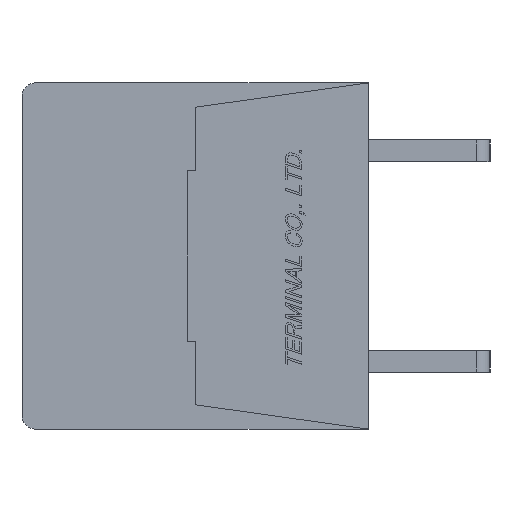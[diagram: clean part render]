
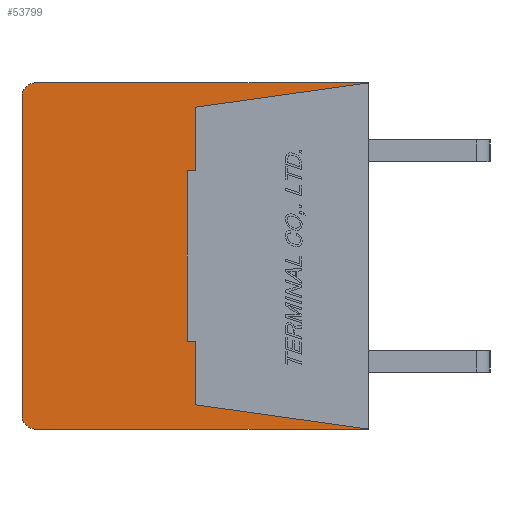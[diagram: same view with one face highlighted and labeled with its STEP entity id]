
A CAD part, left-side view. The second image highlights one B-rep face of the part: STEP entity #53799.
In plain terms, the highlighted planar face has unit normal (-1, 0, 0).
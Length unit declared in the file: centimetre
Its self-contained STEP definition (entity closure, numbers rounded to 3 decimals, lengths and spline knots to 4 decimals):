
#2728=CIRCLE('',#92069,0.05);
#2729=CIRCLE('',#92072,0.05);
#4871=VERTEX_POINT('',#74881);
#4872=VERTEX_POINT('',#74883);
#4873=VERTEX_POINT('',#74887);
#4874=VERTEX_POINT('',#74891);
#4875=VERTEX_POINT('',#74895);
#4876=VERTEX_POINT('',#74899);
#4877=VERTEX_POINT('',#74902);
#4878=VERTEX_POINT('',#74904);
#4879=VERTEX_POINT('',#74906);
#4880=VERTEX_POINT('',#74908);
#4881=VERTEX_POINT('',#74910);
#4882=VERTEX_POINT('',#74912);
#10505=VECTOR('',#62491,1.);
#10509=VECTOR('',#62500,1.);
#10512=VECTOR('',#62508,1.);
#10513=VECTOR('',#62509,1.);
#10514=VECTOR('',#62510,1.);
#10515=VECTOR('',#62511,1.);
#10516=VECTOR('',#62512,1.);
#10517=VECTOR('',#62513,1.);
#10518=VECTOR('',#62514,1.);
#10519=VECTOR('',#62515,1.);
#16821=LINE('',#74882,#10505);
#16825=LINE('',#74892,#10509);
#16828=LINE('',#74900,#10512);
#16829=LINE('',#74901,#10513);
#16830=LINE('',#74903,#10514);
#16831=LINE('',#74905,#10515);
#16832=LINE('',#74907,#10516);
#16833=LINE('',#74909,#10517);
#16834=LINE('',#74911,#10518);
#16835=LINE('',#74913,#10519);
#23917=EDGE_CURVE('',#4872,#4871,#16821,.T.);
#23920=EDGE_CURVE('',#4873,#4871,#2728,.T.);
#23922=EDGE_CURVE('',#4873,#4874,#16825,.T.);
#23924=EDGE_CURVE('',#4875,#4874,#2729,.T.);
#23926=EDGE_CURVE('',#4875,#4876,#16828,.T.);
#23927=EDGE_CURVE('',#4877,#4872,#16829,.T.);
#23928=EDGE_CURVE('',#4876,#4878,#16830,.T.);
#23929=EDGE_CURVE('',#4878,#4879,#16831,.T.);
#23930=EDGE_CURVE('',#4879,#4880,#16832,.T.);
#23931=EDGE_CURVE('',#4880,#4881,#16833,.T.);
#23932=EDGE_CURVE('',#4881,#4882,#16834,.T.);
#23933=EDGE_CURVE('',#4882,#4877,#16835,.T.);
#34795=ORIENTED_EDGE('',*,*,#23927,.T.);
#34796=ORIENTED_EDGE('',*,*,#23917,.T.);
#34797=ORIENTED_EDGE('',*,*,#23920,.F.);
#34798=ORIENTED_EDGE('',*,*,#23922,.T.);
#34799=ORIENTED_EDGE('',*,*,#23924,.F.);
#34800=ORIENTED_EDGE('',*,*,#23926,.T.);
#34801=ORIENTED_EDGE('',*,*,#23928,.T.);
#34802=ORIENTED_EDGE('',*,*,#23929,.T.);
#34803=ORIENTED_EDGE('',*,*,#23930,.T.);
#34804=ORIENTED_EDGE('',*,*,#23931,.T.);
#34805=ORIENTED_EDGE('',*,*,#23932,.T.);
#34806=ORIENTED_EDGE('',*,*,#23933,.T.);
#46863=EDGE_LOOP('',(#34795,#34796,#34797,#34798,#34799,#34800,#34801,#34802,
#34803,#34804,#34805,#34806));
#50403=FACE_BOUND('',#46863,.T.);
#53799=ADVANCED_FACE('',(#50403),#56726,.F.);
#56726=PLANE('',#92066);
#62377=DIRECTION('',(1.,0.,0.));
#62491=DIRECTION('',(0.,1.,0.));
#62496=DIRECTION('',(1.,0.,0.));
#62497=DIRECTION('',(0.,0.,-0.05));
#62500=DIRECTION('',(0.,0.,-1.));
#62504=DIRECTION('',(1.,0.,0.));
#62505=DIRECTION('',(0.,0.,-0.05));
#62508=DIRECTION('',(0.,-1.,0.));
#62509=DIRECTION('',(0.,-0.99,0.139));
#62510=DIRECTION('',(0.,0.99,0.139));
#62511=DIRECTION('',(0.,0.,1.));
#62512=DIRECTION('',(0.,1.,0.));
#62513=DIRECTION('',(0.,0.,1.));
#62514=DIRECTION('',(0.,-1.,0.));
#62515=DIRECTION('',(0.,0.,1.));
#74448=CARTESIAN_POINT('',(-1.,0.6345,0.));
#74881=CARTESIAN_POINT('',(-1.,1.23,0.64));
#74882=CARTESIAN_POINT('',(-1.,0.,0.64));
#74883=CARTESIAN_POINT('',(-1.,0.,0.64));
#74887=CARTESIAN_POINT('',(-1.,1.28,0.59));
#74888=CARTESIAN_POINT('',(-1.,1.23,0.59));
#74891=CARTESIAN_POINT('',(-1.,1.28,-0.59));
#74892=CARTESIAN_POINT('',(-1.,1.28,0.59));
#74895=CARTESIAN_POINT('',(-1.,1.23,-0.64));
#74896=CARTESIAN_POINT('',(-1.,1.23,-0.59));
#74899=CARTESIAN_POINT('',(-1.,0.,-0.64));
#74900=CARTESIAN_POINT('',(-1.,1.23,-0.64));
#74901=CARTESIAN_POINT('',(-1.,0.64,0.55));
#74902=CARTESIAN_POINT('',(-1.,0.64,0.55));
#74903=CARTESIAN_POINT('',(-1.,0.,-0.64));
#74904=CARTESIAN_POINT('',(-1.,0.64,-0.55));
#74905=CARTESIAN_POINT('',(-1.,0.64,-0.55));
#74906=CARTESIAN_POINT('',(-1.,0.64,-0.315));
#74907=CARTESIAN_POINT('',(-1.,0.64,-0.315));
#74908=CARTESIAN_POINT('',(-1.,0.67,-0.315));
#74909=CARTESIAN_POINT('',(-1.,0.67,-0.315));
#74910=CARTESIAN_POINT('',(-1.,0.67,0.315));
#74911=CARTESIAN_POINT('',(-1.,0.67,0.315));
#74912=CARTESIAN_POINT('',(-1.,0.64,0.315));
#74913=CARTESIAN_POINT('',(-1.,0.64,0.315));
#92066=AXIS2_PLACEMENT_3D('',#74448,#62377,$);
#92069=AXIS2_PLACEMENT_3D('',#74888,#62496,#62497);
#92072=AXIS2_PLACEMENT_3D('',#74896,#62504,#62505);
